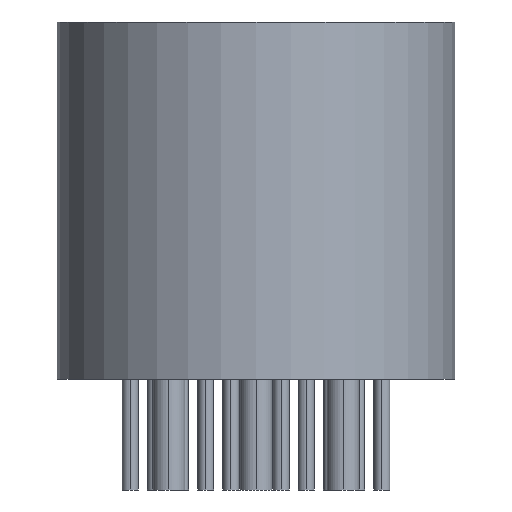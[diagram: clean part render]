
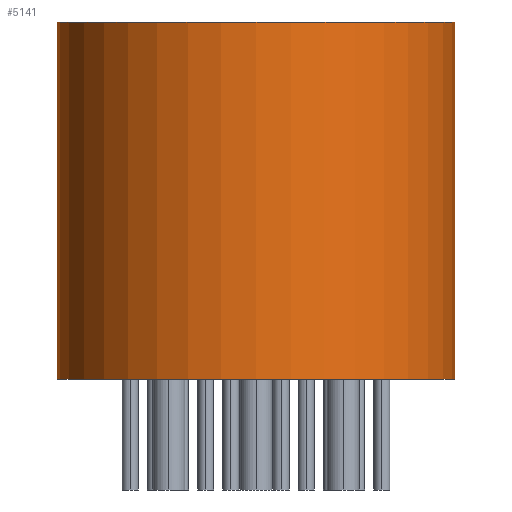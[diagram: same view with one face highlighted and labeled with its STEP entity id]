
A CAD part, front view. The second image highlights one B-rep face of the part: STEP entity #5141.
In plain terms, the highlighted cylindrical face has radius 5.016 mm (diameter 10.033 mm), a partial arc.
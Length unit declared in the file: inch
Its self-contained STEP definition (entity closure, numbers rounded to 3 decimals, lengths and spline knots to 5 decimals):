
#418 = CARTESIAN_POINT ( 'NONE',  ( 0., 0., 0.355 ) ) ;
#423 = LINE ( 'NONE', #10347, #6401 ) ;
#706 = CIRCLE ( 'NONE', #8236, 0.1975 ) ;
#1563 = CARTESIAN_POINT ( 'NONE',  ( -0.1975, 0., 0. ) ) ;
#1662 = ORIENTED_EDGE ( 'NONE', *, *, #2767, .T. ) ;
#1713 = EDGE_CURVE ( 'NONE', #6473, #5438, #423, .T. ) ;
#1730 = CARTESIAN_POINT ( 'NONE',  ( -0.1975, 0., 0.355 ) ) ;
#2767 = EDGE_CURVE ( 'NONE', #5215, #5438, #706, .T. ) ;
#2860 = DIRECTION ( 'NONE',  ( 0., 0., -1. ) ) ;
#3009 = DIRECTION ( 'NONE',  ( 0., 0., 1. ) ) ;
#3089 = DIRECTION ( 'NONE',  ( 1., 0., 0. ) ) ;
#3113 = VECTOR ( 'NONE', #7985, 39.37008 ) ;
#3883 = DIRECTION ( 'NONE',  ( -1., 0., 0. ) ) ;
#4368 = AXIS2_PLACEMENT_3D ( 'NONE', #418, #3009, #7524 ) ;
#5141 = ADVANCED_FACE ( 'NONE', ( #9336 ), #5580, .T. ) ;
#5215 = VERTEX_POINT ( 'NONE', #1563 ) ;
#5235 = ORIENTED_EDGE ( 'NONE', *, *, #8938, .F. ) ;
#5297 = CIRCLE ( 'NONE', #4368, 0.1975 ) ;
#5371 = CARTESIAN_POINT ( 'NONE',  ( 0.1975, 0., 0. ) ) ;
#5438 = VERTEX_POINT ( 'NONE', #5371 ) ;
#5538 = ORIENTED_EDGE ( 'NONE', *, *, #1713, .F. ) ;
#5580 = CYLINDRICAL_SURFACE ( 'NONE', #6710, 0.1975 ) ;
#6401 = VECTOR ( 'NONE', #7550, 39.37008 ) ;
#6414 = CARTESIAN_POINT ( 'NONE',  ( 0., 0., 0.355 ) ) ;
#6473 = VERTEX_POINT ( 'NONE', #8065 ) ;
#6523 = EDGE_LOOP ( 'NONE', ( #5538, #5235, #6709, #1662 ) ) ;
#6709 = ORIENTED_EDGE ( 'NONE', *, *, #6917, .T. ) ;
#6710 = AXIS2_PLACEMENT_3D ( 'NONE', #6414, #2860, #3883 ) ;
#6917 = EDGE_CURVE ( 'NONE', #7562, #5215, #9975, .T. ) ;
#7524 = DIRECTION ( 'NONE',  ( 1., 0., 0. ) ) ;
#7550 = DIRECTION ( 'NONE',  ( 0., 0., -1. ) ) ;
#7562 = VERTEX_POINT ( 'NONE', #8717 ) ;
#7985 = DIRECTION ( 'NONE',  ( 0., 0., -1. ) ) ;
#8065 = CARTESIAN_POINT ( 'NONE',  ( 0.1975, 0., 0.355 ) ) ;
#8236 = AXIS2_PLACEMENT_3D ( 'NONE', #8268, #9183, #3089 ) ;
#8268 = CARTESIAN_POINT ( 'NONE',  ( 0., 0., 0. ) ) ;
#8717 = CARTESIAN_POINT ( 'NONE',  ( -0.1975, 0., 0.355 ) ) ;
#8938 = EDGE_CURVE ( 'NONE', #7562, #6473, #5297, .T. ) ;
#9183 = DIRECTION ( 'NONE',  ( 0., 0., 1. ) ) ;
#9336 = FACE_OUTER_BOUND ( 'NONE', #6523, .T. ) ;
#9975 = LINE ( 'NONE', #1730, #3113 ) ;
#10347 = CARTESIAN_POINT ( 'NONE',  ( 0.1975, 0., 0.355 ) ) ;
